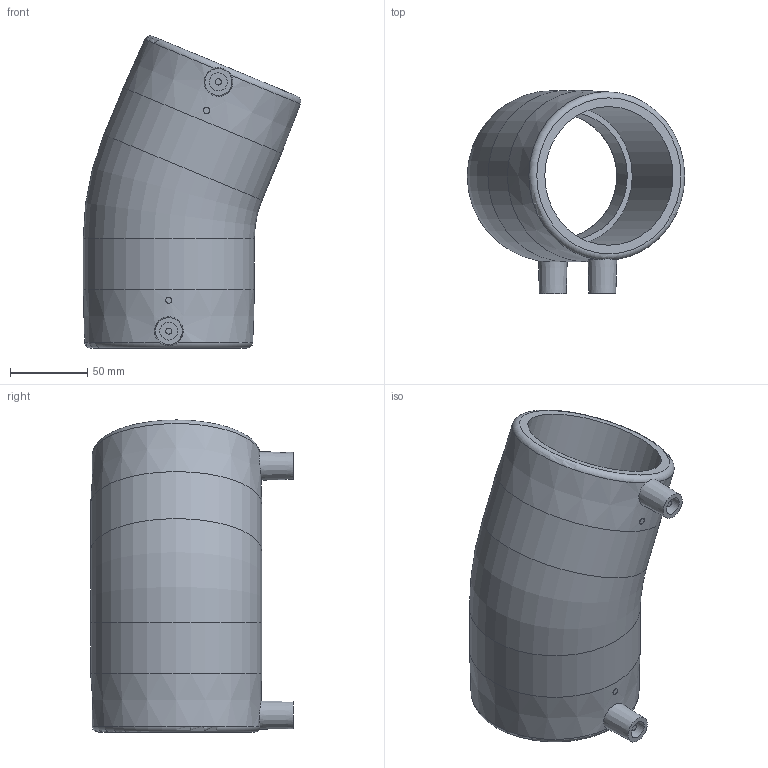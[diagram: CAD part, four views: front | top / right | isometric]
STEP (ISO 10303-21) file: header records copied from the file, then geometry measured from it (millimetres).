
FILE_DESCRIPTION(/* description */ ('Unknown'),/* implementation_level */ '2;1');
FILE_NAME(/* name */ 'GE2250P090C',/* time_stamp */ '2020-11-30T16:36:15+01:00',/* author */ ('Unknown'),/* organization */ ('Unknown'),/* preprocessor_version */ 'ST-DEVELOPER v16.7',/* originating_system */ 'Solid Edge',/* authorisation */ 'Unknown');
FILE_SCHEMA (('AUTOMOTIVE_DESIGN {1 0 10303 214 3 1 1}'));
Length unit declared in the file: millimetre
Products named in the file (1): GE2250P090C
Bounding box: 141.08 x 131.5 x 202.43 mm (x, y, z)
Volume: 671170.6 mm3; surface area: 128687.4 mm2
Topology: 1 solids, 1 shells, 32 faces, 69 edges, 47 vertices
Faces by surface type: plane 12, cylinder 12, torus 4, cone 4
Full cylindrical faces by diameter (mm): 4 x4, 11.7 x2, 83 x2, 90 x2, 111 x2
Entity records: 774 total; most frequent: CARTESIAN_POINT 176, DIRECTION 124, ORIENTED_EDGE 78, AXIS2_PLACEMENT_3D 62, EDGE_LOOP 61, FACE_BOUND 61, EDGE_CURVE 39, VERTEX_POINT 36
